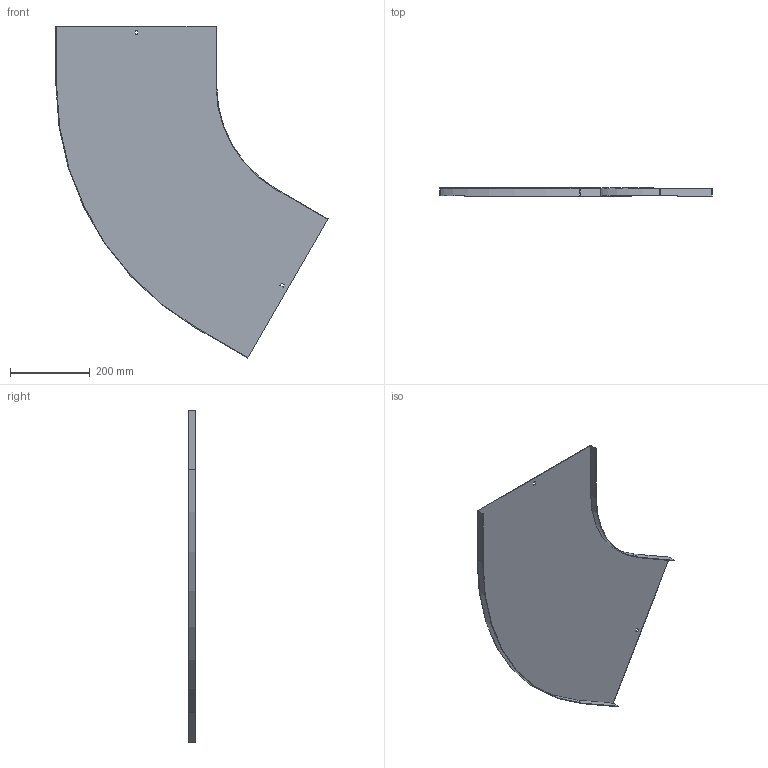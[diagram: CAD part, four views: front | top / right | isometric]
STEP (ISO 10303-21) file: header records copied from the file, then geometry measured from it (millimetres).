
FILE_DESCRIPTION (( 'STEP AP214' ), '1' );
FILE_NAME ('A2_13N3R400.step', '2025-02-21T10:52:13', ( '' ), ( '' ), 'SwSTEP 2.0', 'SolidWorks 2023', '' );
FILE_SCHEMA (( 'AUTOMOTIVE_DESIGN' ));
Length unit declared in the file: millimetre
Products named in the file (1): A2_13N3R400
Bounding box: 682.15 x 20 x 832.52 mm (x, y, z)
Volume: 543399.7 mm3; surface area: 728416.7 mm2
Topology: 1 solids, 1 shells, 26 faces, 72 edges, 48 vertices
Faces by surface type: plane 22, cylinder 4
Entity records: 855 total; most frequent: CARTESIAN_POINT 147, ORIENTED_EDGE 144, DIRECTION 134, EDGE_CURVE 72, VECTOR 64, LINE 64, VERTEX_POINT 48, AXIS2_PLACEMENT_3D 35
